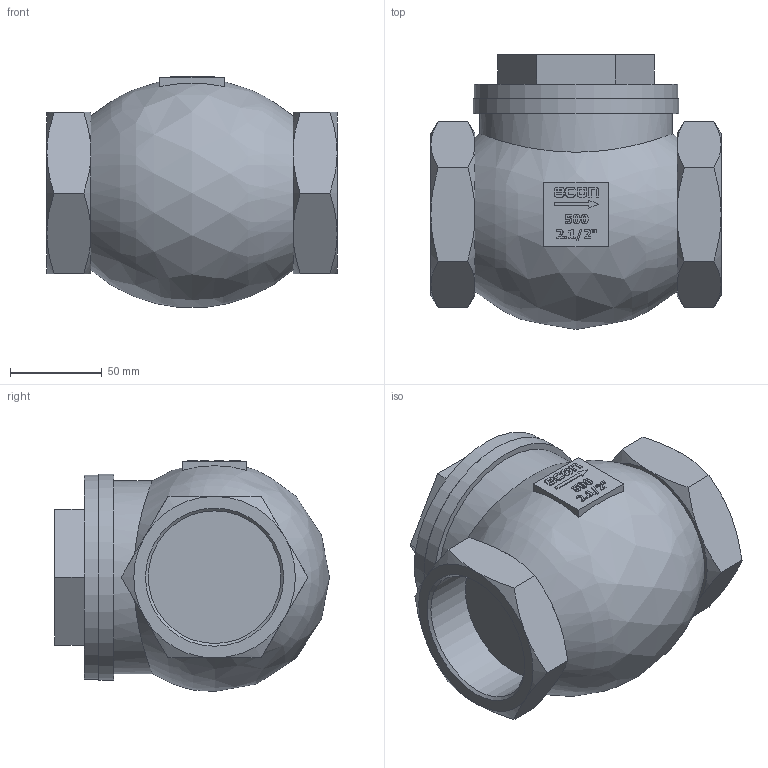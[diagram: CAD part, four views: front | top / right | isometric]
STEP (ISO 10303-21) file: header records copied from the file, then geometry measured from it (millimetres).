
FILE_DESCRIPTION(/* description */ ('Eriks item no: 11811328'),/* implementation_level */ '2;1');
FILE_NAME(/* name */ 'L:\DATA\ENG\Inventor\Econ 3D modellen\terugslagklep\500\500-065-PN16.stp',/* time_stamp */ '2023-12-06T15:55:49+01:00',/* author */ ('roger.thijssen'),/* organization */ (''),/* preprocessor_version */ 'ST-DEVELOPER v18',/* originating_system */ 'Autodesk Inventor 2020',/* authorisation */ '');
FILE_SCHEMA (('CONFIG_CONTROL_DESIGN'));
Length unit declared in the file: millimetre
Products named in the file (1): Check valve, 500-065-PN16
Bounding box: 158 x 149.6 x 125.74 mm (x, y, z)
Volume: 1450487.2 mm3; surface area: 99510.9 mm2
Topology: 1 solids, 1 shells, 298 faces, 769 edges, 507 vertices
Faces by surface type: plane 183, bspline 58, cylinder 31, cone 26
Full cylindrical faces by diameter (mm): 72.226 x2, 105 x1, 111 x1, 112 x1
Entity records: 9582 total; most frequent: CARTESIAN_POINT 2686, ORIENTED_EDGE 1538, DIRECTION 1185, EDGE_CURVE 769, VERTEX_POINT 507, LINE 503, VECTOR 503, AXIS2_PLACEMENT_3D 341
